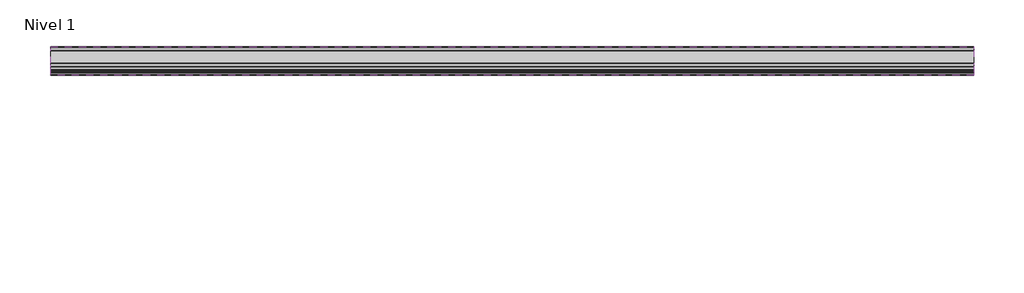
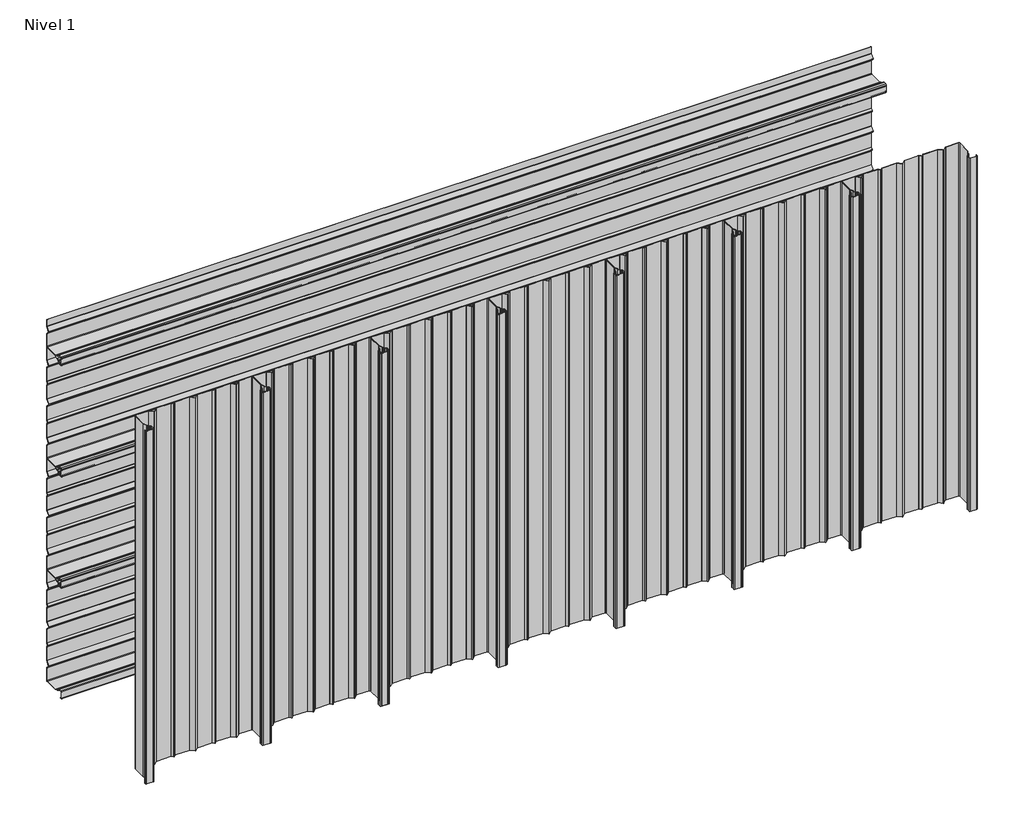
# One storey: 11 plates.
"""IFC4 building model written with IfcOpenShell, lengths in millimetres."""

from ifc_helpers import new_model, si_unit, origin, place, context, project, spatial, transform, mapped, element, save
from components import plate_2ee8f7ca, plate_02a1e95c, plate_889892ed

model = new_model("IFC4")

# Units and contexts
model_context = context("Model", 3, world=origin())
ifc_project = project(units=[si_unit("LENGTHUNIT", "METRE", prefix="MILLI")], contexts=[model_context])

# Site, building, storey
site = spatial("IfcSite", under=ifc_project)
building = spatial("IfcBuilding", under=site)
storey = spatial("IfcBuildingStorey", under=building, Name="Nivel 1", Elevation=0.0)

# Plates
placement = place(None, origin())
plate_shape = plate_2ee8f7ca(model_context)
element("IfcPlate", 1, ObjectType="HIANSA - H20.F09.007-CHAPA PERFILADA FACHADA VERTICAL - BANDEJA 130.600 - Panel de Muro Cortina : -", at=placement, inside=storey, context=model_context, shape_type="MappedRepresentation", body=[
    mapped(plate_shape, transform((4665.1436702, 17658.0269271, 0.0), x_axis=(1.0, 0.0, 0.0), y_axis=(0.0, 1.0, 0.0), z_axis=(0.0, 0.0, 1.0))),
])
element("IfcPlate", 2, ObjectType="HIANSA - H20.F09.007-CHAPA PERFILADA FACHADA VERTICAL - BANDEJA 130.600 - Panel de Muro Cortina : -", at=placement, inside=storey, context=model_context, shape_type="MappedRepresentation", body=[
    mapped(plate_shape, transform((7069.1436703, 17658.0269271, 0.0), x_axis=(1.0, 0.0, 0.0), y_axis=(0.0, 1.0, 0.0), z_axis=(0.0, 0.0, 1.0))),
])
element("IfcPlate", 3, ObjectType="HIANSA - H20.F09.007-CHAPA PERFILADA FACHADA VERTICAL - BANDEJA 130.600 - Panel de Muro Cortina : -", at=placement, inside=storey, context=model_context, shape_type="MappedRepresentation", body=[
    mapped(plate_shape, transform((7670.1436703, 17658.0269271, 0.0), x_axis=(1.0, 0.0, 0.0), y_axis=(0.0, 1.0, 0.0), z_axis=(0.0, 0.0, 1.0))),
])
element("IfcPlate", 4, ObjectType="HIANSA - H20.F09.007-CHAPA PERFILADA FACHADA VERTICAL - BANDEJA 130.600 - Panel de Muro Cortina : -", at=placement, inside=storey, context=model_context, shape_type="MappedRepresentation", body=[
    mapped(plate_shape, transform((8271.1436702, 17658.0269271, 0.0), x_axis=(1.0, 0.0, 0.0), y_axis=(0.0, 1.0, 0.0), z_axis=(0.0, 0.0, 1.0))),
])
element("IfcPlate", 5, ObjectType="HIANSA - H20.F09.007-CHAPA PERFILADA FACHADA VERTICAL - BANDEJA 130.600 - Panel de Muro Cortina : -", at=placement, inside=storey, context=model_context, shape_type="MappedRepresentation", body=[
    mapped(plate_shape, transform((6468.1436703, 17658.0269271, 0.0), x_axis=(1.0, 0.0, 0.0), y_axis=(0.0, 1.0, 0.0), z_axis=(0.0, 0.0, 1.0))),
])
element("IfcPlate", 6, ObjectType="HIANSA - H20.F09.007-CHAPA PERFILADA FACHADA VERTICAL - BANDEJA 130.600 - Panel de Muro Cortina : -", at=placement, inside=storey, context=model_context, shape_type="MappedRepresentation", body=[
    mapped(plate_shape, transform((5867.1436703, 17658.0269271, 0.0), x_axis=(1.0, 0.0, 0.0), y_axis=(0.0, 1.0, 0.0), z_axis=(0.0, 0.0, 1.0))),
])
element("IfcPlate", 7, ObjectType="HIANSA - H20.F09.007-CHAPA PERFILADA FACHADA VERTICAL - BANDEJA 130.600 - Panel de Muro Cortina : -", at=placement, inside=storey, context=model_context, shape_type="MappedRepresentation", body=[
    mapped(plate_shape, transform((5266.1436703, 17658.0269271, 0.0), x_axis=(1.0, 0.0, 0.0), y_axis=(0.0, 1.0, 0.0), z_axis=(0.0, 0.0, 1.0))),
])
plate_2_shape = plate_02a1e95c(model_context)
element("IfcPlate", 8, ObjectType="HIANSA - H20.F09.007-CHAPA PERFILADA FACHADA HORIZONTAL - BANDEJA 130.600 - Panel de Muro Cortina : -", at=placement, inside=storey, context=model_context, shape_type="MappedRepresentation", body=[
    mapped(plate_2_shape, transform((6468.14367, 18436.5269271, 0.0), x_axis=(1.0, 0.0, 0.0), y_axis=(0.0, 1.0, 0.0), z_axis=(0.0, 0.0, 1.0))),
])
element("IfcPlate", 9, ObjectType="HIANSA - H20.F09.007-CHAPA PERFILADA FACHADA HORIZONTAL - BANDEJA 130.600 - Panel de Muro Cortina : -", at=placement, inside=storey, context=model_context, shape_type="MappedRepresentation", body=[
    mapped(plate_2_shape, transform((6468.14367, 18436.5269271, 601.0), x_axis=(1.0, 0.0, 0.0), y_axis=(0.0, 1.0, 0.0), z_axis=(0.0, 0.0, 1.0))),
])
element("IfcPlate", 10, ObjectType="HIANSA - H20.F09.007-CHAPA PERFILADA FACHADA HORIZONTAL - BANDEJA 130.600 - Panel de Muro Cortina : -", at=placement, inside=storey, context=model_context, shape_type="MappedRepresentation", body=[
    mapped(plate_2_shape, transform((6468.14367, 18436.5269271, 1202.0), x_axis=(1.0, 0.0, 0.0), y_axis=(0.0, 1.0, 0.0), z_axis=(0.0, 0.0, 1.0))),
])
plate_3_shape = plate_889892ed(model_context)
element("IfcPlate", 11, ObjectType="HIANSA - H20.F09.007-CHAPA PERFILADA FACHADA HORIZONTAL - BANDEJA 130.600 - Panel de Muro Cortina : -", at=placement, inside=storey, context=model_context, shape_type="MappedRepresentation", body=[
    mapped(plate_3_shape, transform((6468.14367, 18436.5269271, 1803.0), x_axis=(1.0, 0.0, 0.0), y_axis=(0.0, 1.0, 0.0), z_axis=(0.0, 0.0, 1.0))),
])

save(model, "model.ifc")
